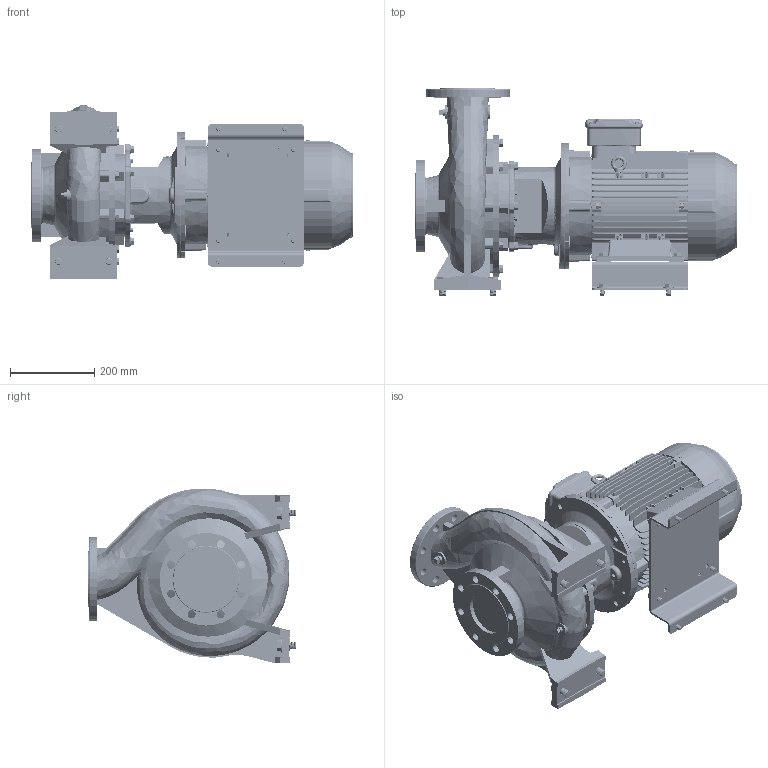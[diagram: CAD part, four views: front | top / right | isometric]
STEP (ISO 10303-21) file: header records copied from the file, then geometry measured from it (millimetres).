
FILE_DESCRIPTION (( 'STEP AP203' ), '1' );
FILE_NAME ('GSD4 80-250_7.5_(132M)_W21.STEP', '2026-07-01T02:25:21', ( '' ), ( '' ), 'SwSTEP 2.0', 'SolidWorks 2024', '' );
FILE_SCHEMA (( 'CONFIG_CONTROL_DESIGN' ));
Length unit declared in the file: millimetre
Products named in the file (12): Parametric Flat Washer_M10; Parametric bolt_SFT-A253B; Parametric bolt and washer_SFT-A353B; Parametric bolt and washer_SFT-A253B; 140_178 x 68 BP - 271472191; Parametric Flat Washer_M16; Parametric bolt and washer_SFT-A249B; Parametric bolt_SFT-A353B; Parametric bolt_SFT-A249B; 132M ALIE3_W21T_B35; 80-250-132M_ﾃﾞﾌｫﾙﾄ; GSD4 80-250_7.5_(132M)_W21
Assembly tree (21 placements, depth 3):
  GSD4 80-250_7.5_(132M)_W21
    80-250-132M_ﾃﾞﾌｫﾙﾄ
    140_178 x 68 BP - 271472191
    Parametric bolt and washer_SFT-A249B  x4
      Parametric bolt_SFT-A249B
      Parametric Flat Washer_M10
    Parametric bolt and washer_SFT-A253B  x4
      Parametric bolt_SFT-A253B
      Parametric Flat Washer_M10
    Parametric bolt and washer_SFT-A353B  x4
      Parametric bolt_SFT-A353B
      Parametric Flat Washer_M16
    132M ALIE3_W21T_B35
Bounding box: 764.8 x 493 x 415.45 mm (x, y, z)
Volume: 38001219 mm3; surface area: 2416114.7 mm2
Topology: 37 solids, 37 shells, 5316 faces, 13836 edges, 8928 vertices
Faces by surface type: plane 3021, cylinder 1365, torus 344, cone 277, bspline 277, sphere 32
Entity records: 192571 total; most frequent: CARTESIAN_POINT 76296, ORIENTED_EDGE 24936, DIRECTION 22273, EDGE_CURVE 12468, VERTEX_POINT 8055, VECTOR 8033, LINE 8033, AXIS2_PLACEMENT_3D 7120
